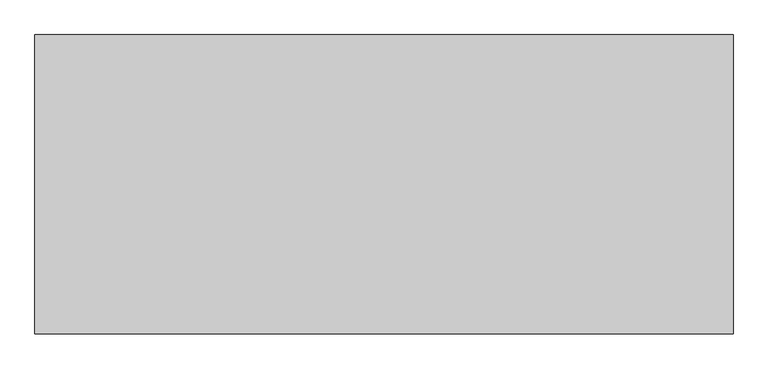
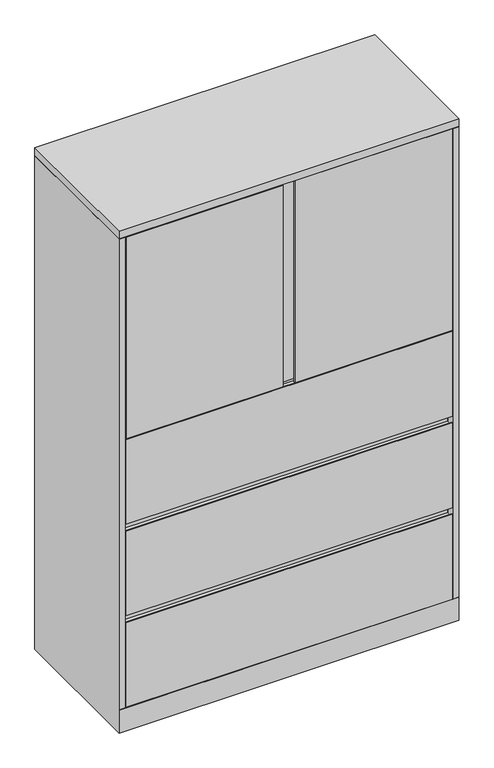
"""IFC4 building model written with IfcOpenShell, lengths in millimetres: furniture geometry, Steelcase - Universal Storage - Cabinet - Combination - Flush Steel : 65 1/2H - 3 Drawers - 18D x 42W."""

import ifcopenshell
import ifcopenshell.guid

model = None  # the IFC model being written
_history = None  # IfcOwnerHistory: only IFC2X3 demands one
_inside = {}  # id of a spatial element -> (the spatial element, [elements in it])
_under = {}  # id of a project, library or spatial element -> (it, [spatial elements below it])
_declared = {}  # id of a project -> (the project, [libraries it declares])
_typed = {}  # id of a type object -> (the type object, [elements of that type])
_made_of = {}  # id of a material, layer set ... -> (it, [elements and type objects made of it])


def new_model(schema):
    """Start an empty IFC model of exactly this schema.

    Asked for "IFC4X3", IfcOpenShell would pick the latest addendum, in which some entities
    have other attributes; the version numbers below select the first issue.
    IFC2X3 requires an IfcOwnerHistory on every rooted entity: one is made here for all.
    """
    global model, _history
    if schema == "IFC4X3":
        model = ifcopenshell.file(schema_version=(4, 3, 0, 0))
    else:
        model = ifcopenshell.file(schema=schema)
    _inside.clear()
    _under.clear()
    _declared.clear()
    _typed.clear()
    _made_of.clear()
    _history = None
    if model.schema == "IFC2X3":
        org = make("IfcOrganization", Name="unknown")
        user = make(
            "IfcPersonAndOrganization",
            ThePerson=make("IfcPerson", FamilyName="unknown"),
            TheOrganization=org,
        )
        app = make(
            "IfcApplication",
            ApplicationDeveloper=org,
            Version="unknown",
            ApplicationFullName="unknown",
            ApplicationIdentifier="unknown",
        )
        _history = make(
            "IfcOwnerHistory",
            OwningUser=user,
            OwningApplication=app,
            ChangeAction="ADDED",
            CreationDate=0,
        )
    return model


def make(cls, **values):
    """One entity of the class cls with the attributes given. An attribute that is None is left unset."""
    return model.create_entity(
        cls, **{name: value for name, value in values.items() if value is not None}
    )


def rooted(cls, **values):
    """An entity with a GlobalId (a new one), such as an element, a storey or a relation."""
    return make(cls, GlobalId=ifcopenshell.guid.new(), OwnerHistory=_history, **values)


def si_unit(unit_type, name, prefix=None):
    """IfcSIUnit, for example si_unit("LENGTHUNIT", "METRE", prefix="MILLI")."""
    return make("IfcSIUnit", UnitType=unit_type, Prefix=prefix, Name=name)


def assignment(units):
    """IfcUnitAssignment: the units of a project."""
    return None if units is None else make("IfcUnitAssignment", Units=units)


def point(xyz):
    """IfcCartesianPoint."""
    return None if xyz is None else make("IfcCartesianPoint", Coordinates=xyz)


def direction(xyz):
    """IfcDirection."""
    return None if xyz is None else make("IfcDirection", DirectionRatios=xyz)


def frame(location, z_axis=None, x_axis=None):
    """IfcAxis2Placement3D, a coordinate frame: its origin and axes. An axis left out is left unset."""
    return make(
        "IfcAxis2Placement3D",
        Location=point(location),
        Axis=direction(z_axis),
        RefDirection=direction(x_axis),
    )


def origin():
    """The frame at (0, 0, 0) with its axes left unset."""
    return frame((0.0, 0.0, 0.0))


def place(relative_to, where):
    """IfcLocalPlacement: puts the frame where relative to a parent placement (None: the world)."""
    return make(
        "IfcLocalPlacement", PlacementRelTo=relative_to, RelativePlacement=where
    )


def context(
    kind, dimensions, precision=None, world=None, true_north=None, identifier=None
):
    """IfcGeometricRepresentationContext, for example the 3D "Model" context."""
    return make(
        "IfcGeometricRepresentationContext",
        ContextIdentifier=identifier,
        ContextType=kind,
        CoordinateSpaceDimension=dimensions,
        Precision=precision,
        WorldCoordinateSystem=world,
        TrueNorth=true_north,
    )


def project(units=None, contexts=None):
    """IfcProject with its units and contexts."""
    return rooted(
        "IfcProject",
        Name="project",
        RepresentationContexts=contexts,
        UnitsInContext=assignment(units),
    )


def spatial(cls, under=None, at=None, **own):
    """A site, building, storey or space (cls), placed at a placement, below another one or the project."""
    s = rooted(cls, ObjectPlacement=at, **own)
    if under is not None:
        _under.setdefault(under.id(), (under, []))[1].append(s)
    return s


def polyline(points):
    """IfcPolyline through the points."""
    return make("IfcPolyline", Points=[point(p) for p in points])


def outline(outer, holes=None, kind="AREA"):
    """IfcArbitraryClosedProfileDef: a profile drawn as a closed curve; with holes, ...WithVoids."""
    if holes is None:
        return make("IfcArbitraryClosedProfileDef", ProfileType=kind, OuterCurve=outer)
    return make(
        "IfcArbitraryProfileDefWithVoids",
        ProfileType=kind,
        OuterCurve=outer,
        InnerCurves=holes,
    )


def extrude(swept, where, along, depth):
    """IfcExtrudedAreaSolid: the profile swept, set in the frame where, extruded along a direction by depth."""
    return make(
        "IfcExtrudedAreaSolid",
        SweptArea=swept,
        Position=where,
        ExtrudedDirection=direction(along),
        Depth=depth,
    )


def faces_of(points, faces, orient=None, outer=None):
    """IfcFace entities. A face is a list of loops; a loop is a list of indices into points, from 0.

    orient and outer hold one flag for each loop. By default every Orientation is true, the
    first loop of a face is its IfcFaceOuterBound and the others are IfcFaceBound.
    """
    made = []
    for i, loops in enumerate(faces):
        bounds = []
        for j, loop in enumerate(loops):
            is_outer = j == 0 if outer is None else outer[i][j]
            bounds.append(
                make(
                    "IfcFaceOuterBound" if is_outer else "IfcFaceBound",
                    Bound=make("IfcPolyLoop", Polygon=[points[k] for k in loop]),
                    Orientation=True if orient is None else orient[i][j],
                )
            )
        made.append(make("IfcFace", Bounds=bounds))
    return made


def faceted_brep(points, faces, orient=None, outer=None, voids=None):
    """IfcFacetedBrep: a solid bounded by flat faces; with voids (closed shells), ...WithVoids."""
    shared = [point(p) for p in points]
    hull = make("IfcClosedShell", CfsFaces=faces_of(shared, faces, orient, outer))
    if voids is None:
        return make("IfcFacetedBrep", Outer=hull)
    return make(
        "IfcFacetedBrepWithVoids",
        Outer=hull,
        Voids=[
            make(cls, CfsFaces=faces_of(shared, fs, o, b)) for cls, fs, o, b in voids
        ],
    )


def shape(context_of_items, identifier, shape_type, items):
    """IfcShapeRepresentation: the items that make up one representation, for example the "Body"."""
    return make(
        "IfcShapeRepresentation",
        ContextOfItems=context_of_items,
        RepresentationIdentifier=identifier,
        RepresentationType=shape_type,
        Items=items,
    )


def source(mapping_origin, context_of_items, identifier, shape_type, items):
    """IfcRepresentationMap: a shape defined once, which mapped items show again and again."""
    return make(
        "IfcRepresentationMap",
        MappingOrigin=mapping_origin,
        MappedRepresentation=shape(context_of_items, identifier, shape_type, items),
    )


def transform(
    local_origin,
    x_axis=None,
    y_axis=None,
    z_axis=None,
    scale=None,
    scale2=None,
    scale3=None,
    uniform=True,
):
    """IfcCartesianTransformationOperator3D, or its non-uniform kind. x_axis, y_axis, z_axis: its Axis1, 2, 3."""
    if uniform:
        return make(
            "IfcCartesianTransformationOperator3D",
            Axis1=direction(x_axis),
            Axis2=direction(y_axis),
            LocalOrigin=point(local_origin),
            Scale=scale,
            Axis3=direction(z_axis),
        )
    return make(
        "IfcCartesianTransformationOperator3DnonUniform",
        Axis1=direction(x_axis),
        Axis2=direction(y_axis),
        LocalOrigin=point(local_origin),
        Scale=scale,
        Axis3=direction(z_axis),
        Scale2=scale2,
        Scale3=scale3,
    )


def mapped(mapping_source, mapping_target):
    """IfcMappedItem: shows the shape of a source again, moved by a transform."""
    return make(
        "IfcMappedItem", MappingSource=mapping_source, MappingTarget=mapping_target
    )


def made_of(thing, what):
    """Note that an element or type object is made of a material, layer set ...; save() writes the relation."""
    if what is not None:
        _made_of.setdefault(what.id(), (what, []))[1].append(thing)
    return thing


def element(
    cls,
    number,
    at=None,
    inside=None,
    cuts=None,
    type_object=None,
    material=None,
    context=None,
    identifier="Body",
    shape_type=None,
    held_by="IfcProductDefinitionShape",
    body=None,
    shapes=None,
    **own,
):
    """One element of the class cls, such as IfcWall. Its Tag is "e" and its number.

    at: its placement. inside: the storey or other place that contains it. cuts: it is an
    opening in that element (IfcRelVoidsElement). A single representation is given by context,
    identifier, shape_type and body (its items); several are given by shapes. held_by: the class
    of the entity that holds the representations. save() writes the other relations.
    """
    e = rooted(cls, Tag="e%d" % number, ObjectPlacement=at, **own)
    if body is not None:
        shapes = [shape(context, identifier, shape_type, body)]
    if shapes is not None:
        e.Representation = make(held_by, Representations=shapes)
    if inside is not None:
        _inside.setdefault(inside.id(), (inside, []))[1].append(e)
    if cuts is not None:
        rooted(
            "IfcRelVoidsElement", RelatingBuildingElement=cuts, RelatedOpeningElement=e
        )
    if type_object is not None:
        _typed.setdefault(type_object.id(), (type_object, []))[1].append(e)
    return made_of(e, material)


def aggregate(whole, parts):
    """IfcRelAggregates: a whole, such as a stair, and the parts it consists of."""
    return rooted("IfcRelAggregates", RelatingObject=whole, RelatedObjects=parts)


def save(model, path):
    """Write the relations noted so far, then the file.

    IfcRelAggregates (storeys below a building ...), IfcRelContainedInSpatialStructure (elements
    in a storey), IfcRelDefinesByType, IfcRelAssociatesMaterial and IfcRelDeclares: one each for
    every whole, place, type object, material and project.
    """
    for whole, parts in _under.values():
        aggregate(whole, parts)
    for where, things in _inside.values():
        rooted(
            "IfcRelContainedInSpatialStructure",
            RelatedElements=things,
            RelatingStructure=where,
        )
    for kind, things in _typed.values():
        rooted("IfcRelDefinesByType", RelatedObjects=things, RelatingType=kind)
    for what, things in _made_of.values():
        rooted("IfcRelAssociatesMaterial", RelatedObjects=things, RelatingMaterial=what)
    for by, libraries in _declared.values():
        rooted("IfcRelDeclares", RelatingContext=by, RelatedDefinitions=libraries)
    model.write(path)


def furniture_418095aa(model_context):
    return source(origin(), model_context, "Body", "SolidModel", [
        extrude(outline(polyline([(21.8068168, -431.673866), (1045.972, -431.673866), (1045.972, -457.2), (552.45, -457.2), (552.45, -452.883482), (565.6189152, -452.883482), (565.6189152, -438.0238781), (514.35, -438.0238781), (514.35, -457.2), (21.8068168, -457.2), (21.8068168, -431.673866)])), frame((0.0, 0.0, 968.756), z_axis=(0.0, 0.0, 1.0), x_axis=(1.0, 0.0, 0.0)), (0.0, 0.0, 1.0), 668.02),
        extrude(outline(polyline([(1066.8, 0.0), (1066.8, -457.2), (0.0, -457.2), (0.0, 0.0), (1066.8, 0.0)])), frame((0.0, 0.0, 1638.2999516), z_axis=(0.0, 0.0, 1.0), x_axis=(1.0, 0.0, 0.0)), (0.0, 0.0, 1.0), 25.4000484),
        extrude(outline(polyline([(-457.2, 358.7750484), (-454.0242491, 358.7750484), (-454.0242491, 349.2500484), (-431.673866, 349.2500484), (-431.673866, 381.0), (-430.1498674, 381.0), (-430.1498674, 349.2500484), (-430.1498674, 77.724), (-457.2, 77.724), (-457.2, 358.7750484)])), frame((20.8280006, 0.0, 0.0), z_axis=(1.0, 0.0, 0.0), x_axis=(0.0, 1.0, 0.0)), (0.0, 0.0, 1.0), 1025.1439994),
        extrude(outline(polyline([(1041.4000242, -25.4000008), (1041.4000242, -430.1498674), (25.4000008, -430.1498674), (25.4000008, -25.4000008), (1041.4000242, -25.4000008)])), frame((0.0, 0.0, 358.7750484), z_axis=(0.0, 0.0, 1.0), x_axis=(1.0, 0.0, 0.0)), (0.0, 0.0, 1.0), 22.2249516),
        extrude(outline(polyline([(1041.4000242, -25.4000008), (1041.4000242, -430.1498674), (25.4000008, -430.1498674), (25.4000008, -25.4000008), (1041.4000242, -25.4000008)])), frame((0.0, 0.0, 1268.6030484), z_axis=(0.0, 0.0, 1.0), x_axis=(1.0, 0.0, 0.0)), (0.0, 0.0, 1.0), 22.2249516),
        extrude(outline(polyline([(-457.2, 965.3270484), (-454.0242491, 965.3270484), (-454.0242491, 955.8020484), (-431.673866, 955.8020484), (-431.673866, 987.552), (-430.1498674, 987.552), (-430.1498674, 955.8020484), (-430.1498674, 684.276), (-457.2, 684.276), (-457.2, 965.3270484)])), frame((20.8280006, 0.0, 0.0), z_axis=(1.0, 0.0, 0.0), x_axis=(0.0, 1.0, 0.0)), (0.0, 0.0, 1.0), 1025.1439994),
        extrude(outline(polyline([(1041.4000242, -25.4000008), (1041.4000242, -430.1498674), (25.4000008, -430.1498674), (25.4000008, -25.4000008), (1041.4000242, -25.4000008)])), frame((0.0, 0.0, 965.3270484), z_axis=(0.0, 0.0, 1.0), x_axis=(1.0, 0.0, 0.0)), (0.0, 0.0, 1.0), 22.2249516),
        extrude(outline(polyline([(-457.2, 662.0510484), (-454.0242491, 662.0510484), (-454.0242491, 652.5260484), (-431.673866, 652.5260484), (-431.673866, 684.276), (-430.1498674, 684.276), (-430.1498674, 652.5260484), (-430.1498674, 381.0), (-457.2, 381.0), (-457.2, 662.0510484)])), frame((20.8280006, 0.0, 0.0), z_axis=(1.0, 0.0, 0.0), x_axis=(0.0, 1.0, 0.0)), (0.0, 0.0, 1.0), 1025.1439994),
        extrude(outline(polyline([(1041.4000242, -25.4000008), (1041.4000242, -430.1498674), (25.4000008, -430.1498674), (25.4000008, -25.4000008), (1041.4000242, -25.4000008)])), frame((0.0, 0.0, 662.0510484), z_axis=(0.0, 0.0, 1.0), x_axis=(1.0, 0.0, 0.0)), (0.0, 0.0, 1.0), 22.2249516),
        faceted_brep([(1066.8, 0.0, 0.0), (1066.8, -457.2, 0.0), (0.0, -457.2, 0.0), (0.0, 0.0, 0.0), (0.0, 0.0, 1636.776), (1066.8, 0.0, 1636.776), (0.0, -457.2, 76.2), (0.0, -457.2, 77.724), (0.0, -457.2, 1636.776), (1066.8, -457.2, 76.2), (1066.8, -457.2, 1636.776), (1066.8, -457.2, 77.724), (1041.4000242, -25.4000008, 1636.776), (1041.4000242, -430.1498674, 1636.776), (1045.972, -430.1498674, 1636.776), (1045.972, -431.6738781, 1636.776), (1047.496, -431.6738781, 1636.776), (1047.496, -457.2, 1636.776), (19.304, -457.2, 1636.776), (19.304, -431.673866, 1636.776), (20.8280006, -431.673866, 1636.776), (20.8280006, -430.1498674, 1636.776), (25.4000008, -430.1498674, 1636.776), (25.4000008, -25.4000008, 1636.776), (19.304, -457.2, 77.724), (19.304, -437.896, 77.724), (1047.496, -457.2, 77.724), (1047.496, -437.7698418, 77.724), (1041.4000242, -25.4000008, 77.724), (1041.4000242, -430.1498674, 77.724), (1045.972, -430.1498674, 77.724), (1045.972, -431.6738781, 77.724), (1047.496, -431.6738781, 77.724), (19.304, -431.673866, 77.724), (20.8280006, -431.673866, 77.724), (20.8280006, -430.1498674, 77.724), (25.4000008, -430.1498674, 77.724), (25.4000008, -25.4000008, 77.724), (25.526134, -431.673866, 77.724), (1041.4000242, -431.673866, 77.724)], [[[0, 1, 2, 3]], [[0, 3, 4, 5]], [[4, 3, 2, 6, 7, 8]], [[2, 1, 9, 6]], [[1, 0, 5, 10, 11, 9]], [[12, 13, 14, 15, 16, 17, 10, 5, 4, 8, 18, 19, 20, 21, 22, 23]], [[24, 7, 25]], [[11, 26, 27]], [[13, 12, 28, 29]], [[14, 13, 29, 30]], [[15, 14, 30, 31]], [[16, 15, 31, 32]], [[17, 16, 32, 27, 26]], [[10, 17, 26, 11]], [[18, 8, 7, 24]], [[19, 18, 24, 25, 33]], [[20, 19, 33, 34]], [[21, 20, 34, 35]], [[22, 21, 35, 36]], [[23, 22, 36, 37]], [[12, 23, 37, 28]], [[38, 39, 27, 32, 31, 30, 29, 28, 37, 36, 35, 34, 33, 25]], [[7, 6, 38, 25]], [[39, 38, 6, 9]], [[39, 9, 11, 27]]]),
    ])


if __name__ == "__main__":
    model = new_model("IFC4")
    model_context = context("Model", 3, world=origin())
    ifc_project = project(units=[si_unit("LENGTHUNIT", "METRE", prefix="MILLI")], contexts=[model_context])
    site = spatial("IfcSite", under=ifc_project)
    building = spatial("IfcBuilding", under=site)
    placement = place(None, origin())
    furniture_shape = furniture_418095aa(model_context)
    element("IfcFurniture", 1, ObjectType="Steelcase - Universal Storage - Cabinet - Combination - Flush Steel : 65 1/2H - 3 Drawers - 18D x 42W", at=placement, inside=building, context=model_context, shape_type="MappedRepresentation", body=[
        mapped(furniture_shape, transform((0.0, 0.0, 0.0), x_axis=(1.0, 0.0, 0.0), y_axis=(0.0, 1.0, 0.0), z_axis=(0.0, 0.0, 1.0))),
    ])
    save(model, "model.ifc")
